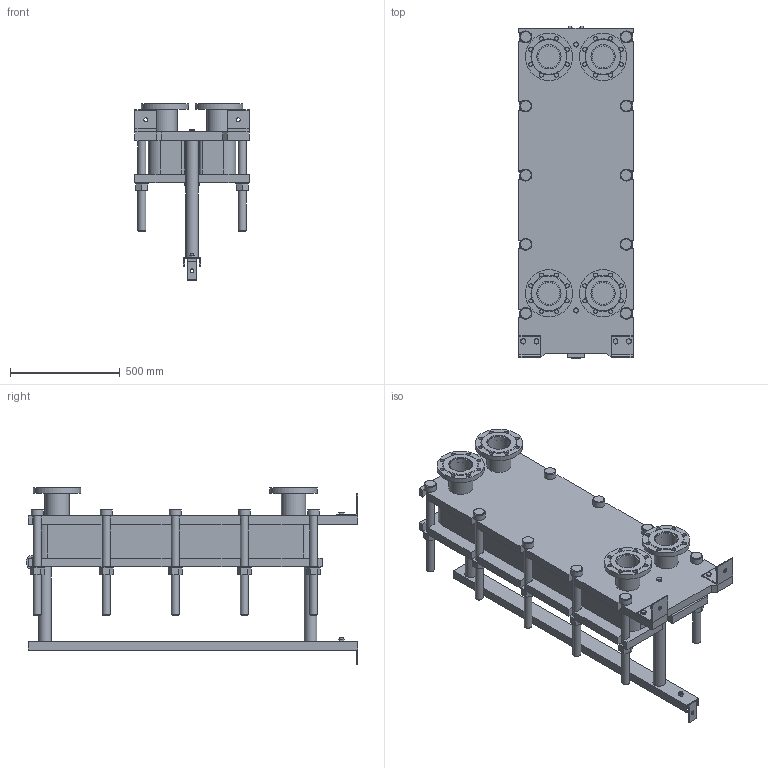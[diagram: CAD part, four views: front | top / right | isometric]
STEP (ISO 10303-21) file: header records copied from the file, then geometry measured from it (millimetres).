
FILE_DESCRIPTION(/* description */ (''),/* implementation_level */ '2;1');
FILE_NAME(/* name */ 'C:\Users\zhuro\Desktop\ENCO\TO\ЭН-04\ЭН-0,5-04-44-1.stp',/* time_stamp */ '2022-06-06T10:47:51+03:00',/* author */ ('zhuro'),/* organization */ (''),/* preprocessor_version */ 'ST-DEVELOPER v18.1',/* originating_system */ 'Autodesk Inventor 2022',/* authorisation */ '');
FILE_SCHEMA (('CONFIG_CONTROL_DESIGN','AUTOMOTIVE_DESIGN { 1 0 10303 214 3 1 1 }'));
Length unit declared in the file: millimetre
Products named in the file (1): ЭН-0,5-04-44-1
Bounding box: 520 x 1510 x 807 mm (x, y, z)
Volume: 144054250.7 mm3; surface area: 7123816.6 mm2
Topology: 45 solids, 45 shells, 668 faces, 1611 edges, 1048 vertices
Faces by surface type: plane 457, cylinder 166, cone 39, torus 6
Full cylindrical faces by diameter (mm): 8 x4, 10 x2, 16 x8, 18 x35, 36 x25, 40 x2, 42 x1, 45 x4, 54 x10, 57 x2, 60 x10, 68 x2, 100 x4, 110 x8, 215 x4
Entity records: 23607 total; most frequent: CARTESIAN_POINT 7348, DIRECTION 3371, ORIENTED_EDGE 3142, EDGE_CURVE 1571, AXIS2_PLACEMENT_3D 1199, VERTEX_POINT 1044, LINE 973, VECTOR 973
